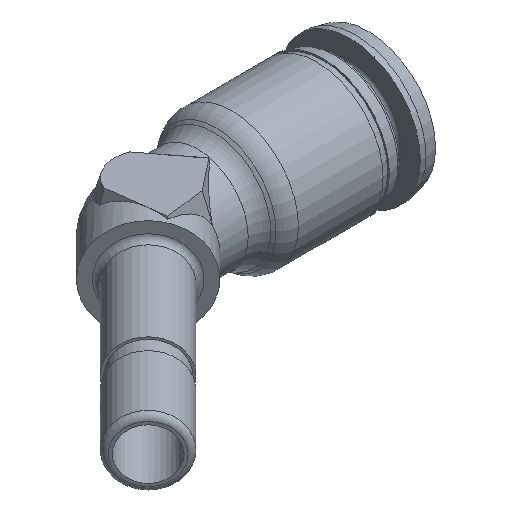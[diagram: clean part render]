
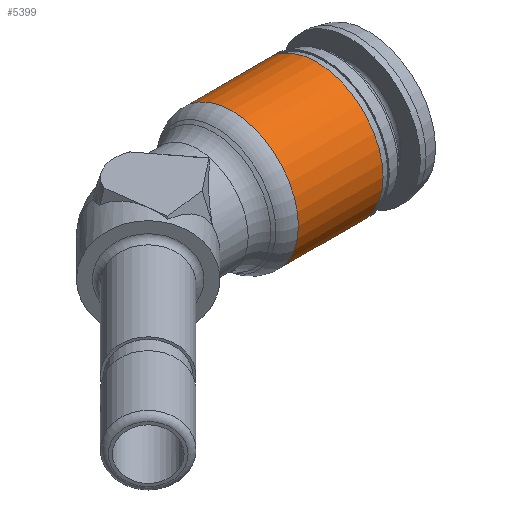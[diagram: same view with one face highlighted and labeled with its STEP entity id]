
A CAD part, isometric view. The second image highlights one B-rep face of the part: STEP entity #5399.
In plain terms, the highlighted cylindrical face has radius 5.9 mm (diameter 11.8 mm), a full revolution.
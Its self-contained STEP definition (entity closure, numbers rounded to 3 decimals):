
#756 = EDGE_CURVE ( 'NONE', #6040, #6040, #1927, .T. ) ;
#759 = EDGE_CURVE ( 'NONE', #6035, #6035, #1930, .T. ) ;
#1083 = ORIENTED_EDGE ( 'NONE', *, *, #756, .T. ) ;
#1295 = EDGE_LOOP ( 'NONE', ( #1543 ) ) ;
#1353 = EDGE_LOOP ( 'NONE', ( #1083 ) ) ;
#1543 = ORIENTED_EDGE ( 'NONE', *, *, #759, .F. ) ;
#1927 = CIRCLE ( 'NONE', #3476, 5.9 ) ;
#1930 = CIRCLE ( 'NONE', #3479, 5.9 ) ;
#2105 = AXIS2_PLACEMENT_3D ( 'NONE', #3597, #3594, #3587 ) ;
#3423 = CYLINDRICAL_SURFACE ( 'NONE', #2105, 5.9 ) ;
#3431 = FACE_OUTER_BOUND ( 'NONE', #1353, .T. ) ;
#3476 = AXIS2_PLACEMENT_3D ( 'NONE', #7059, #7083, #7124 ) ;
#3479 = AXIS2_PLACEMENT_3D ( 'NONE', #7053, #7061, #7052 ) ;
#3587 = DIRECTION ( 'NONE',  ( 0., 0., 1. ) ) ;
#3594 = DIRECTION ( 'NONE',  ( -1., 0., 0. ) ) ;
#3597 = CARTESIAN_POINT ( 'NONE',  ( 0., 0., 0. ) ) ;
#4664 = CARTESIAN_POINT ( 'NONE',  ( 7.428, 0., 5.9 ) ) ;
#4668 = CARTESIAN_POINT ( 'NONE',  ( 14.94, 0., 5.9 ) ) ;
#4877 = FACE_OUTER_BOUND ( 'NONE', #1295, .T. ) ;
#5399 = ADVANCED_FACE ( 'NONE', ( #4877, #3431 ), #3423, .T. ) ;
#6035 = VERTEX_POINT ( 'NONE', #4664 ) ;
#6040 = VERTEX_POINT ( 'NONE', #4668 ) ;
#7052 = DIRECTION ( 'NONE',  ( 0., 0., 1. ) ) ;
#7053 = CARTESIAN_POINT ( 'NONE',  ( 7.428, 0., 0. ) ) ;
#7059 = CARTESIAN_POINT ( 'NONE',  ( 14.94, 0., 0. ) ) ;
#7061 = DIRECTION ( 'NONE',  ( -1., 0., 0. ) ) ;
#7083 = DIRECTION ( 'NONE',  ( -1., 0., 0. ) ) ;
#7124 = DIRECTION ( 'NONE',  ( 0., 0., 1. ) ) ;
